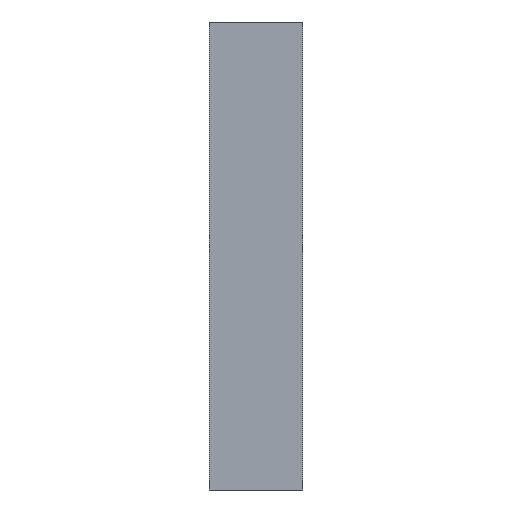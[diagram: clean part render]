
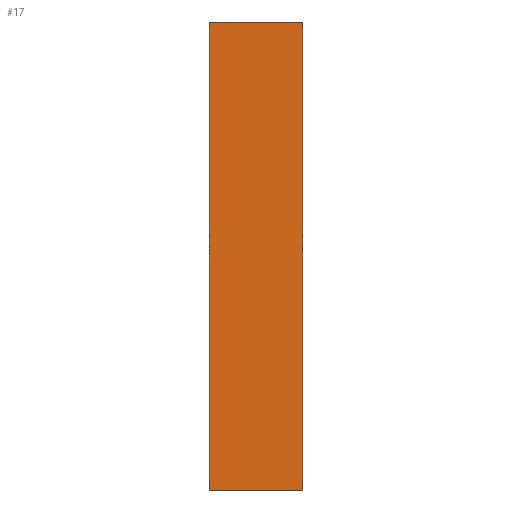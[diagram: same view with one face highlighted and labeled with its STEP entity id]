
A CAD part, left-side view. The second image highlights one B-rep face of the part: STEP entity #17.
In plain terms, the highlighted planar face has unit normal (-1, 0, 0).
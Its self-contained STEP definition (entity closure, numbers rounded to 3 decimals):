
#17 = ADVANCED_FACE('',(#18),#32,.F.);
#18 = FACE_BOUND('',#19,.F.);
#19 = EDGE_LOOP('',(#20,#55,#83,#111));
#20 = ORIENTED_EDGE('',*,*,#21,.F.);
#21 = EDGE_CURVE('',#22,#24,#26,.T.);
#22 = VERTEX_POINT('',#23);
#23 = CARTESIAN_POINT('',(-525.,-76.913,-43.));
#24 = VERTEX_POINT('',#25);
#25 = CARTESIAN_POINT('',(-525.,-76.913,-3.));
#26 = SURFACE_CURVE('',#27,(#31,#43),.PCURVE_S1.);
#27 = LINE('',#28,#29);
#28 = CARTESIAN_POINT('',(-525.,-76.913,-43.));
#29 = VECTOR('',#30,1.);
#30 = DIRECTION('',(0.,0.,1.));
#31 = PCURVE('',#32,#37);
#32 = PLANE('',#33);
#33 = AXIS2_PLACEMENT_3D('',#34,#35,#36);
#34 = CARTESIAN_POINT('',(-525.,-76.913,-43.));
#35 = DIRECTION('',(1.,0.,-0.));
#36 = DIRECTION('',(0.,0.,1.));
#37 = DEFINITIONAL_REPRESENTATION('',(#38),#42);
#38 = LINE('',#39,#40);
#39 = CARTESIAN_POINT('',(0.,0.));
#40 = VECTOR('',#41,1.);
#41 = DIRECTION('',(1.,0.));
#42 = ( GEOMETRIC_REPRESENTATION_CONTEXT(2) 
PARAMETRIC_REPRESENTATION_CONTEXT() REPRESENTATION_CONTEXT('2D SPACE',''
  ) );
#43 = PCURVE('',#44,#49);
#44 = PLANE('',#45);
#45 = AXIS2_PLACEMENT_3D('',#46,#47,#48);
#46 = CARTESIAN_POINT('',(-525.,-76.913,-43.));
#47 = DIRECTION('',(-0.,1.,0.));
#48 = DIRECTION('',(0.,0.,1.));
#49 = DEFINITIONAL_REPRESENTATION('',(#50),#54);
#50 = LINE('',#51,#52);
#51 = CARTESIAN_POINT('',(0.,0.));
#52 = VECTOR('',#53,1.);
#53 = DIRECTION('',(1.,0.));
#54 = ( GEOMETRIC_REPRESENTATION_CONTEXT(2) 
PARAMETRIC_REPRESENTATION_CONTEXT() REPRESENTATION_CONTEXT('2D SPACE',''
  ) );
#55 = ORIENTED_EDGE('',*,*,#56,.T.);
#56 = EDGE_CURVE('',#22,#57,#59,.T.);
#57 = VERTEX_POINT('',#58);
#58 = CARTESIAN_POINT('',(-525.,-68.913,-43.));
#59 = SURFACE_CURVE('',#60,(#64,#71),.PCURVE_S1.);
#60 = LINE('',#61,#62);
#61 = CARTESIAN_POINT('',(-525.,-76.913,-43.));
#62 = VECTOR('',#63,1.);
#63 = DIRECTION('',(-0.,1.,0.));
#64 = PCURVE('',#32,#65);
#65 = DEFINITIONAL_REPRESENTATION('',(#66),#70);
#66 = LINE('',#67,#68);
#67 = CARTESIAN_POINT('',(0.,0.));
#68 = VECTOR('',#69,1.);
#69 = DIRECTION('',(0.,-1.));
#70 = ( GEOMETRIC_REPRESENTATION_CONTEXT(2) 
PARAMETRIC_REPRESENTATION_CONTEXT() REPRESENTATION_CONTEXT('2D SPACE',''
  ) );
#71 = PCURVE('',#72,#77);
#72 = PLANE('',#73);
#73 = AXIS2_PLACEMENT_3D('',#74,#75,#76);
#74 = CARTESIAN_POINT('',(-525.,-76.913,-43.));
#75 = DIRECTION('',(0.,0.,1.));
#76 = DIRECTION('',(1.,0.,-0.));
#77 = DEFINITIONAL_REPRESENTATION('',(#78),#82);
#78 = LINE('',#79,#80);
#79 = CARTESIAN_POINT('',(0.,0.));
#80 = VECTOR('',#81,1.);
#81 = DIRECTION('',(0.,1.));
#82 = ( GEOMETRIC_REPRESENTATION_CONTEXT(2) 
PARAMETRIC_REPRESENTATION_CONTEXT() REPRESENTATION_CONTEXT('2D SPACE',''
  ) );
#83 = ORIENTED_EDGE('',*,*,#84,.T.);
#84 = EDGE_CURVE('',#57,#85,#87,.T.);
#85 = VERTEX_POINT('',#86);
#86 = CARTESIAN_POINT('',(-525.,-68.913,-3.));
#87 = SURFACE_CURVE('',#88,(#92,#99),.PCURVE_S1.);
#88 = LINE('',#89,#90);
#89 = CARTESIAN_POINT('',(-525.,-68.913,-43.));
#90 = VECTOR('',#91,1.);
#91 = DIRECTION('',(0.,0.,1.));
#92 = PCURVE('',#32,#93);
#93 = DEFINITIONAL_REPRESENTATION('',(#94),#98);
#94 = LINE('',#95,#96);
#95 = CARTESIAN_POINT('',(0.,-8.));
#96 = VECTOR('',#97,1.);
#97 = DIRECTION('',(1.,0.));
#98 = ( GEOMETRIC_REPRESENTATION_CONTEXT(2) 
PARAMETRIC_REPRESENTATION_CONTEXT() REPRESENTATION_CONTEXT('2D SPACE',''
  ) );
#99 = PCURVE('',#100,#105);
#100 = PLANE('',#101);
#101 = AXIS2_PLACEMENT_3D('',#102,#103,#104);
#102 = CARTESIAN_POINT('',(-525.,-68.913,-43.));
#103 = DIRECTION('',(-0.,1.,0.));
#104 = DIRECTION('',(0.,0.,1.));
#105 = DEFINITIONAL_REPRESENTATION('',(#106),#110);
#106 = LINE('',#107,#108);
#107 = CARTESIAN_POINT('',(0.,0.));
#108 = VECTOR('',#109,1.);
#109 = DIRECTION('',(1.,0.));
#110 = ( GEOMETRIC_REPRESENTATION_CONTEXT(2) 
PARAMETRIC_REPRESENTATION_CONTEXT() REPRESENTATION_CONTEXT('2D SPACE',''
  ) );
#111 = ORIENTED_EDGE('',*,*,#112,.F.);
#112 = EDGE_CURVE('',#24,#85,#113,.T.);
#113 = SURFACE_CURVE('',#114,(#118,#125),.PCURVE_S1.);
#114 = LINE('',#115,#116);
#115 = CARTESIAN_POINT('',(-525.,-76.913,-3.));
#116 = VECTOR('',#117,1.);
#117 = DIRECTION('',(-0.,1.,0.));
#118 = PCURVE('',#32,#119);
#119 = DEFINITIONAL_REPRESENTATION('',(#120),#124);
#120 = LINE('',#121,#122);
#121 = CARTESIAN_POINT('',(40.,0.));
#122 = VECTOR('',#123,1.);
#123 = DIRECTION('',(0.,-1.));
#124 = ( GEOMETRIC_REPRESENTATION_CONTEXT(2) 
PARAMETRIC_REPRESENTATION_CONTEXT() REPRESENTATION_CONTEXT('2D SPACE',''
  ) );
#125 = PCURVE('',#126,#131);
#126 = PLANE('',#127);
#127 = AXIS2_PLACEMENT_3D('',#128,#129,#130);
#128 = CARTESIAN_POINT('',(-525.,-76.913,-3.));
#129 = DIRECTION('',(0.,0.,1.));
#130 = DIRECTION('',(1.,0.,-0.));
#131 = DEFINITIONAL_REPRESENTATION('',(#132),#136);
#132 = LINE('',#133,#134);
#133 = CARTESIAN_POINT('',(0.,0.));
#134 = VECTOR('',#135,1.);
#135 = DIRECTION('',(0.,1.));
#136 = ( GEOMETRIC_REPRESENTATION_CONTEXT(2) 
PARAMETRIC_REPRESENTATION_CONTEXT() REPRESENTATION_CONTEXT('2D SPACE',''
  ) );
